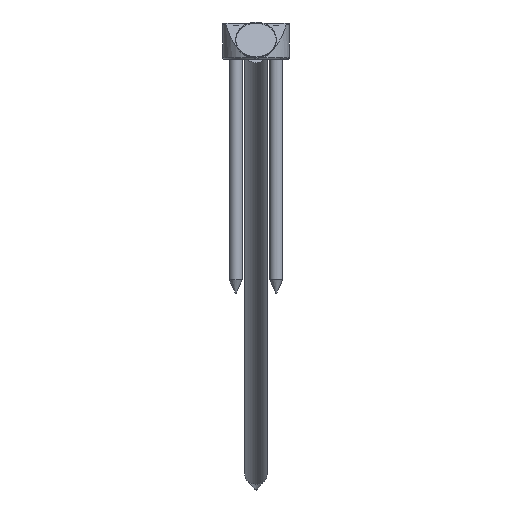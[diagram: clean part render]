
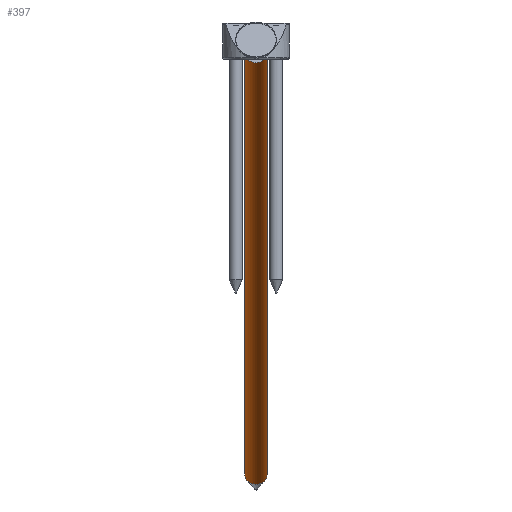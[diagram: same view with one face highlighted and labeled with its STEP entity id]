
A CAD part, front view. The second image highlights one B-rep face of the part: STEP entity #397.
In plain terms, the highlighted cylindrical face has radius 5 mm (diameter 10 mm), a full revolution.
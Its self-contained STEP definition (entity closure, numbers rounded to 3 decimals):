
#59=CYLINDRICAL_SURFACE('',#490,5.);
#151=ORIENTED_EDGE('',*,*,#195,.T.);
#152=ORIENTED_EDGE('',*,*,#194,.F.);
#194=EDGE_CURVE('',#228,#228,#257,.T.);
#195=EDGE_CURVE('',#229,#229,#258,.T.);
#228=VERTEX_POINT('',#766);
#229=VERTEX_POINT('',#769);
#257=CIRCLE('',#489,5.);
#258=CIRCLE('',#491,5.);
#306=EDGE_LOOP('',(#151));
#307=EDGE_LOOP('',(#152));
#357=FACE_BOUND('',#306,.T.);
#358=FACE_BOUND('',#307,.T.);
#397=ADVANCED_FACE('',(#357,#358),#59,.T.);
#489=AXIS2_PLACEMENT_3D('',#765,#616,#617);
#490=AXIS2_PLACEMENT_3D('',#767,#618,#619);
#491=AXIS2_PLACEMENT_3D('',#768,#620,#621);
#616=DIRECTION('',(0.,1.,0.));
#617=DIRECTION('',(0.,0.,1.));
#618=DIRECTION('',(0.,1.,0.));
#619=DIRECTION('',(0.,0.,1.));
#620=DIRECTION('',(0.,1.,0.));
#621=DIRECTION('',(0.,0.,1.));
#765=CARTESIAN_POINT('',(0.,42.,0.));
#766=CARTESIAN_POINT('',(0.,42.,5.));
#767=CARTESIAN_POINT('',(0.,54.,0.));
#768=CARTESIAN_POINT('',(0.,-333.,0.));
#769=CARTESIAN_POINT('',(0.,-333.,5.));
